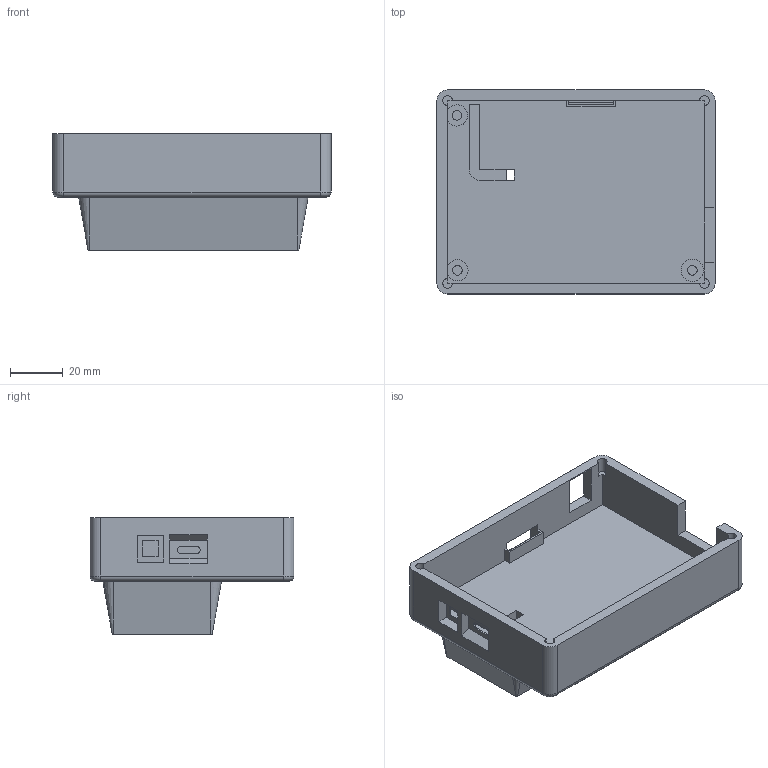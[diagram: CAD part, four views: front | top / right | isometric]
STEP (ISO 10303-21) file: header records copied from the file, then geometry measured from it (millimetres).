
FILE_DESCRIPTION(('STEP AP242 Edition 2','STEP AP242 Edition 2''CAx-IF Rec.Pracs.---Representation and Presentation of Product Manufacturing Information (PMI)---4.0---2014-10-13','STEP AP242 Edition 2''CAx-IF Rec.Pracs.---Representation and Presentation of Product Manufacturing Information (PMI)---4.0---2014-10-13''CAx-IF Rec.Pracs.---3D Tessellated Geometry---0.4---2014-09-14','STEP AP242 Edition 2''CAx-IF Rec.Pracs.---Representation and Presentation of Product Manufacturing Information (PMI)---4.0---2014-10-13''CAx-IF Rec.Pracs.---3D Tessellated Geometry---0.4---2014-09-14''2;1','STEP AP242 Edition 2''CAx-IF Rec.Pracs.---Representation and Presentation of Product Manufacturing Information (PMI)---4.0---2014-10-13''CAx-IF Rec.Pracs.---3D Tessellated Geometry---0.4---2014-09-14''2;1''CAx-IF Rec.Pracs.---User Defined Attributes---1.5---2016-08-15'),'2;1');
FILE_NAME('/vol/tmp/translate-14958899252267850940/3D_PCB_PCB_ESP32-sd-int_2026-03-29nosilk - Part 1.step','2026-03-31T16:57:26',(''),(''),'ST-DEVELOPER v20','ONSHAPE BY PTC INC, 1.212',' ');
FILE_SCHEMA(('AP242_MANAGED_MODEL_BASED_3D_ENGINEERING_MIM_LF { 1 0 10303 442 3 1 4 }'));
Length unit declared in the file: metre
Products named in the file (1): Part 1
Bounding box: 105 x 77 x 44 mm (x, y, z)
Volume: 92451.6 mm3; surface area: 39550.6 mm2
Topology: 1 solids, 1 shells, 370 faces, 996 edges, 661 vertices
Faces by surface type: plane 231, bspline 87, cylinder 44, cone 4, torus 4
Full cylindrical faces by diameter (mm): 3.65 x7, 8.5 x1
Entity records: 11983 total; most frequent: CARTESIAN_POINT 2992, ORIENTED_EDGE 1976, DIRECTION 1499, EDGE_CURVE 988, LINE 711, VECTOR 711, VERTEX_POINT 661, EDGE_LOOP 423
